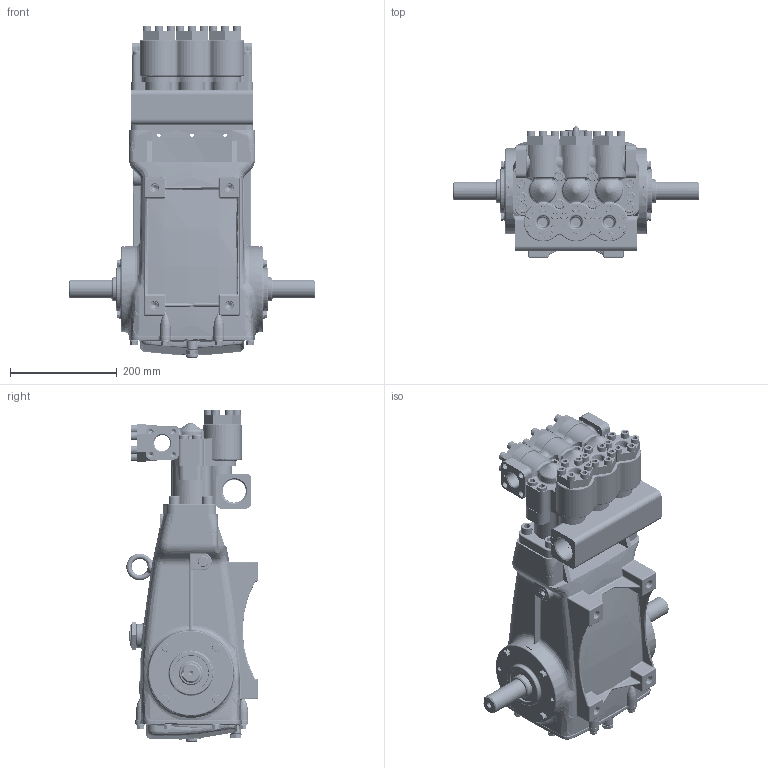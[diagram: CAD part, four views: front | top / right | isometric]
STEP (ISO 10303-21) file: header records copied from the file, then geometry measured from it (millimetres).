
FILE_DESCRIPTION (( 'STEP AP214' ), '1' );
FILE_NAME ('3511.STEP', '2012-12-14T07:33:08', ( '' ), ( '' ), 'SwSTEP 2.0', 'SolidWorks 2012', '' );
FILE_SCHEMA (( 'AUTOMOTIVE_DESIGN' ));
Length unit declared in the file: millimetre
Products named in the file (1): 3511
Bounding box: 460 x 246.1 x 622 mm (x, y, z)
Volume: 8940917.8 mm3; surface area: 1824903.1 mm2
Topology: 3 solids, 77 shells, 6958 faces, 16737 edges, 10279 vertices
Faces by surface type: plane 2798, cylinder 2007, bspline 842, cone 670, torus 602, sphere 39
Entity records: 305040 total; most frequent: CARTESIAN_POINT 86444, ORIENTED_EDGE 33024, DIRECTION 32216, EDGE_CURVE 16512, AXIS2_PLACEMENT_3D 12207, VERTEX_POINT 10268, LINE 7802, VECTOR 7802
